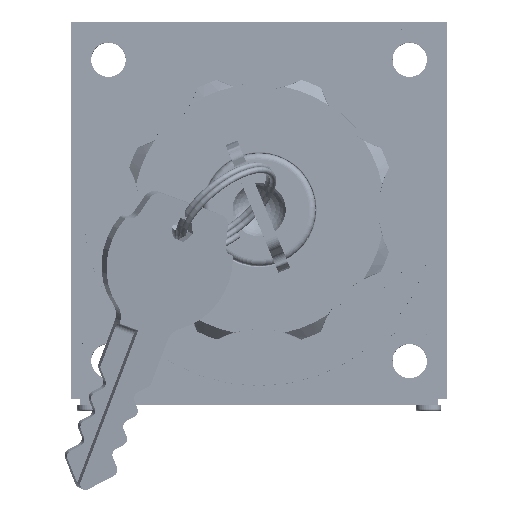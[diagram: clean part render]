
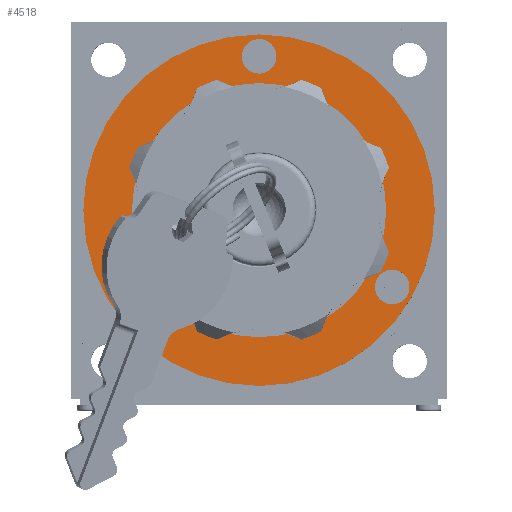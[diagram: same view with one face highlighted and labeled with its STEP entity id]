
A CAD part, top view. The second image highlights one B-rep face of the part: STEP entity #4518.
In plain terms, the highlighted planar face has unit normal (0, 0, 1).
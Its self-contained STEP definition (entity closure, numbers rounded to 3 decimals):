
#4204=PLANE('',#18359);
#4518=ADVANCED_FACE('',(#6038,#6039,#6040,#6041,#6042),#4204,.T.);
#6038=FACE_BOUND('',#6630,.T.);
#6039=FACE_BOUND('',#6631,.T.);
#6040=FACE_BOUND('',#6632,.T.);
#6041=FACE_BOUND('',#6633,.T.);
#6042=FACE_BOUND('',#6634,.T.);
#6630=EDGE_LOOP('',(#7998));
#6631=EDGE_LOOP('',(#7999));
#6632=EDGE_LOOP('',(#8000));
#6633=EDGE_LOOP('',(#8001));
#6634=EDGE_LOOP('',(#8002));
#7998=ORIENTED_EDGE('',*,*,#14768,.T.);
#7999=ORIENTED_EDGE('',*,*,#14769,.T.);
#8000=ORIENTED_EDGE('',*,*,#14770,.T.);
#8001=ORIENTED_EDGE('',*,*,#14764,.T.);
#8002=ORIENTED_EDGE('',*,*,#14760,.F.);
#12998=VERTEX_POINT('',#25359);
#13002=VERTEX_POINT('',#25369);
#13006=VERTEX_POINT('',#25379);
#13007=VERTEX_POINT('',#25381);
#13008=VERTEX_POINT('',#25383);
#14760=EDGE_CURVE('',#12998,#12998,#17264,.T.);
#14764=EDGE_CURVE('',#13002,#13002,#17268,.T.);
#14768=EDGE_CURVE('',#13006,#13006,#17272,.T.);
#14769=EDGE_CURVE('',#13007,#13007,#17273,.T.);
#14770=EDGE_CURVE('',#13008,#13008,#17274,.T.);
#17264=CIRCLE('',#18344,20.25);
#17268=CIRCLE('',#18350,28.);
#17272=CIRCLE('',#18356,2.75);
#17273=CIRCLE('',#18357,2.75);
#17274=CIRCLE('',#18358,2.75);
#18344=AXIS2_PLACEMENT_3D('',#25358,#20321,#20322);
#18350=AXIS2_PLACEMENT_3D('',#25368,#20333,#20334);
#18356=AXIS2_PLACEMENT_3D('',#25378,#20345,#20346);
#18357=AXIS2_PLACEMENT_3D('',#25380,#20347,#20348);
#18358=AXIS2_PLACEMENT_3D('',#25382,#20349,#20350);
#18359=AXIS2_PLACEMENT_3D('',#25384,#20351,#20352);
#20321=DIRECTION('',(0.,0.,1.));
#20322=DIRECTION('',(1.,0.,0.));
#20333=DIRECTION('',(0.,0.,1.));
#20334=DIRECTION('',(1.,0.,0.));
#20345=DIRECTION('',(0.,0.,-1.));
#20346=DIRECTION('',(1.,0.,0.));
#20347=DIRECTION('',(0.,0.,-1.));
#20348=DIRECTION('',(1.,0.,0.));
#20349=DIRECTION('',(0.,0.,-1.));
#20350=DIRECTION('',(1.,0.,0.));
#20351=DIRECTION('',(0.,0.,1.));
#20352=DIRECTION('',(1.,0.,0.));
#25358=CARTESIAN_POINT('',(168.469,183.679,47.5));
#25359=CARTESIAN_POINT('',(188.719,183.679,47.5));
#25368=CARTESIAN_POINT('',(168.469,183.679,47.5));
#25369=CARTESIAN_POINT('',(196.469,183.679,47.5));
#25378=CARTESIAN_POINT('',(168.469,208.179,47.5));
#25379=CARTESIAN_POINT('',(171.219,208.179,47.5));
#25380=CARTESIAN_POINT('',(147.252,171.429,47.5));
#25381=CARTESIAN_POINT('',(150.002,171.429,47.5));
#25382=CARTESIAN_POINT('',(189.687,171.429,47.5));
#25383=CARTESIAN_POINT('',(192.437,171.429,47.5));
#25384=CARTESIAN_POINT('',(179.078,177.554,47.5));
